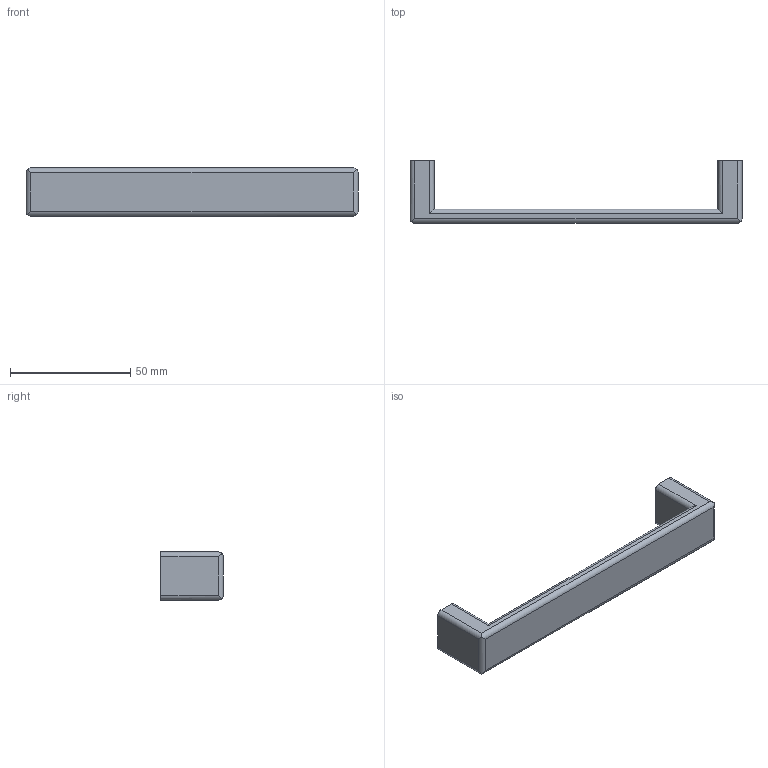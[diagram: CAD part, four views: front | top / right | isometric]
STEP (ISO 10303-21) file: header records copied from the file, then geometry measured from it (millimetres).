
FILE_DESCRIPTION( ( '' ), '1' );
FILE_NAME( 'D:/1.AUTOCAD EXPORT/Group 10/sheet_10_1/9995436.stp', '2013-10-21T12:09:21', ( '' ), ( '' ), ' ', ' ', ' ' );
FILE_SCHEMA( ( 'automotive_design' ) );
Length unit declared in the file: millimetre
Products named in the file (1): 1
Bounding box: 138 x 25.9 x 20 mm (x, y, z)
Volume: 23219.4 mm3; surface area: 9330.2 mm2
Topology: 1 solids, 1 shells, 30 faces, 74 edges, 48 vertices
Faces by surface type: cylinder 18, plane 12
Entity records: 1772 total; most frequent: DIRECTION 168, STYLED_ITEM 153, PRESENTATION_STYLE_ASSIGNMENT 153, CARTESIAN_POINT 153, COLOUR_RGB 153, ORIENTED_EDGE 148, EDGE_CURVE 74, CURVE_STYLE 74
